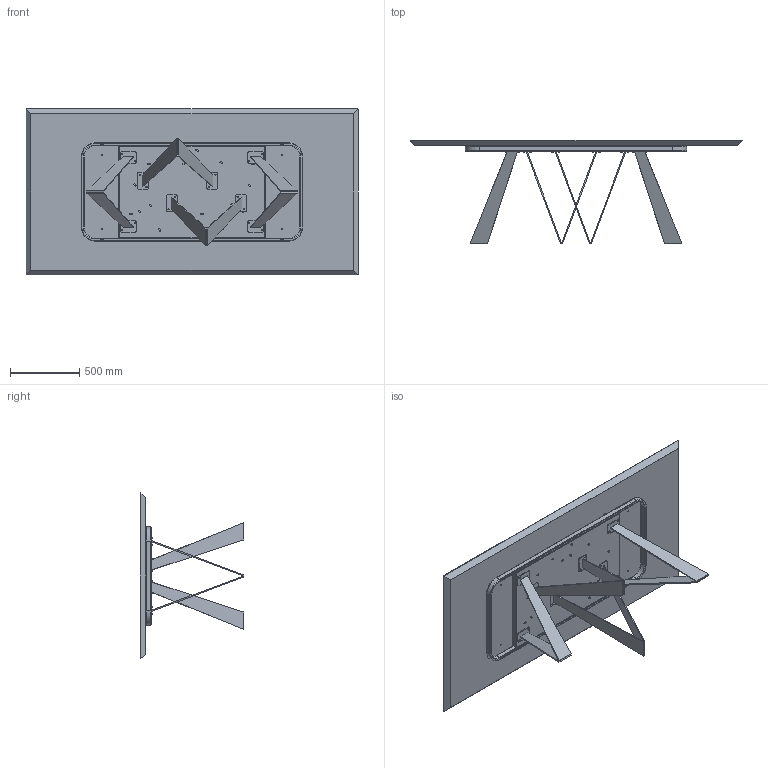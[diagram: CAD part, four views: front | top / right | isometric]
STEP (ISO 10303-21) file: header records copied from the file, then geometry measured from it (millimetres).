
FILE_DESCRIPTION (( 'STEP AP203' ), '1' );
FILE_NAME ('NO23W_Noa_240x120x75h_Wood Rectangular.STEP', '2024-08-07T14:29:13', ( '' ), ( '' ), 'SwSTEP 2.0', 'SolidWorks 2022', '' );
FILE_SCHEMA (( 'CONFIG_CONTROL_DESIGN' ));
Length unit declared in the file: millimetre
Products named in the file (15): M8xXXmm_M8x16mm; NOA000001PTRS-00-Piastra rettangoalre con fori; Assieme NOA var 3_noa 200-240; W2XCMXX-00-Piani Rettangolari in legno_2400 x 1200; NOA000001GMB-00-Piastra Principale gamba NOA_Piatto SX; NOA000001GMB-00-Piastra Principale gamba NOA_Piatto DX; NOA000000-00-NOA BASE GREZZA; rondella M8_8X16; M8xXXmm_M8x55mm; 434070-00-PIEDINO TPV GOMMA NERO D. 30x8max18; TTAV06_01-01-STRUTTURA X TAVOLI PLAI ONDA NOA 240_Default<A macchina>; TTAV06-01-TELAIO X TAVOLI PLAI ONDA NOA 240cm_TTAV06; MAPPA; NO23W_Noa_240x120x75h_Wood Rectangular; TTAV06_02-01-VASSOIO TAVOLI PLAI ONDA NOA 240
Assembly tree (55 placements, depth 4):
  MAPPA
  NO23W_Noa_240x120x75h_Wood Rectangular
    W2XCMXX-00-Piani Rettangolari in legno_2400 x 1200
    Assieme NOA var 3_noa 200-240
      NOA000000-00-NOA BASE GREZZA  x4
        NOA000001GMB-00-Piastra Principale gamba NOA_Piatto SX
        NOA000001GMB-00-Piastra Principale gamba NOA_Piatto DX
        NOA000001PTRS-00-Piastra rettangoalre con fori
      TTAV06-01-TELAIO X TAVOLI PLAI ONDA NOA 240cm_TTAV06
        TTAV06_02-01-VASSOIO TAVOLI PLAI ONDA NOA 240
        TTAV06_01-01-STRUTTURA X TAVOLI PLAI ONDA NOA 240_Default<A macchina>
    M8xXXmm_M8x55mm  x4
    rondella M8_8X16  x20
    M8xXXmm_M8x16mm  x16
    434070-00-PIEDINO TPV GOMMA NERO D. 30x8max18  x2
Bounding box: 2400 x 747.8 x 1200 mm (x, y, z)
Volume: 114222813.1 mm3; surface area: 9932037.6 mm2
Topology: 70 solids, 70 shells, 1684 faces, 3862 edges, 2283 vertices
Faces by surface type: plane 640, cylinder 434, cone 330, torus 280
Entity records: 23084 total; most frequent: DIRECTION 3768, CARTESIAN_POINT 3596, ORIENTED_EDGE 3312, EDGE_CURVE 1656, AXIS2_PLACEMENT_3D 1423, VERTEX_POINT 1031, VECTOR 922, LINE 922
